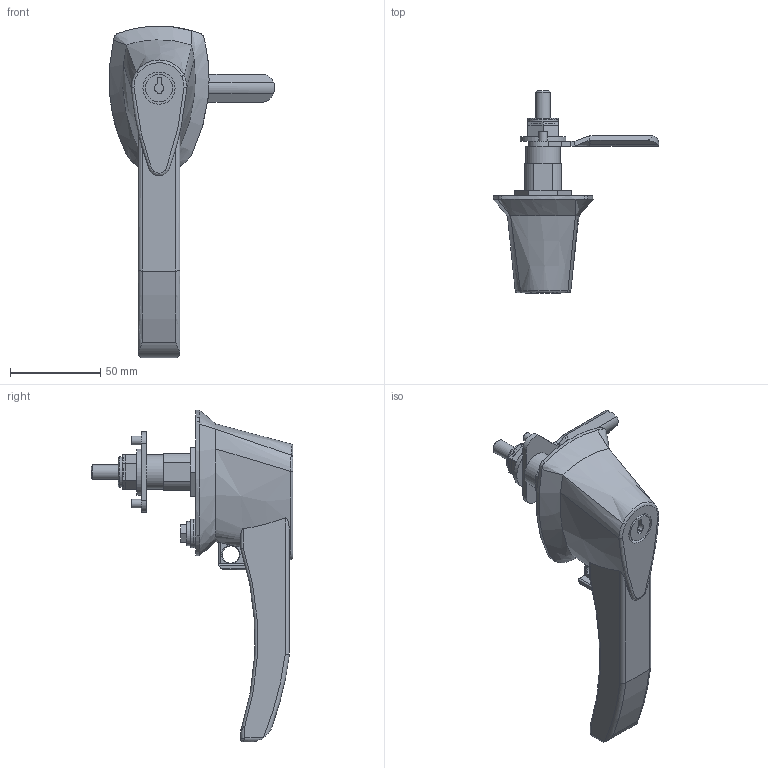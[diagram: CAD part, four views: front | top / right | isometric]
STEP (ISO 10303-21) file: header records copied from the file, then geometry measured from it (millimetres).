
FILE_DESCRIPTION( ( 'Unknown' ), '1' );
FILE_NAME( 'S:/STOCK/9-ACCESSORIES/LOCKS_HANDLES/MHKL1SS.stp', 'Unknown', ( 'Unknown' ), ( 'Unknown' ), 'PSStep 16.0.42', 'Unknown', ' ' );
FILE_SCHEMA( ( 'AUTOMOTIVE_DESIGN { 1 0 10303 214 1 1 1 1 }' ) );
Length unit declared in the file: millimetre
Products named in the file (12): HAN86296; HAN86296_SCREW; HAN86296_NUT; Assem1; LOC13040nut; hanwasher; hanwasher-oa0; LOC13397; WAF25059; SPC86071; HAN13046NUT
Assembly tree (11 placements, depth 3):
  Assem1
    LOC13040nut
    hanwasher
    hanwasher-oa0
    LOC13397
    WAF25059
    SPC86071
    HAN13046NUT
    HAN86296
      HAN86296
      HAN86296_SCREW
      HAN86296_NUT
Bounding box: 91.37 x 111.71 x 183.51 mm (x, y, z)
Volume: 182386.8 mm3; surface area: 38550.2 mm2
Topology: 10 solids, 10 shells, 222 faces, 559 edges, 356 vertices
Faces by surface type: plane 120, cylinder 63, bspline 28, torus 6, cone 3, sphere 2
Full cylindrical faces by diameter (mm): 4.763 x2, 5.893 x1, 5.918 x1, 8.128 x1, 8.255 x1, 8.509 x2, 8.89 x2, 9.525 x1, 11.125 x1, 11.303 x1, 13.335 x1, 15.24 x1, 15.672 x2, 16.891 x2, 17.78 x1, 19.05 x1, 19.169 x1, 25.4 x1
Entity records: 11700 total; most frequent: CARTESIAN_POINT 5617, ORIENTED_EDGE 1020, DIRECTION 911, EDGE_CURVE 510, VERTEX_POINT 347, AXIS2_PLACEMENT_3D 334, EDGE_LOOP 279, FACE_OUTER_BOUND 247
